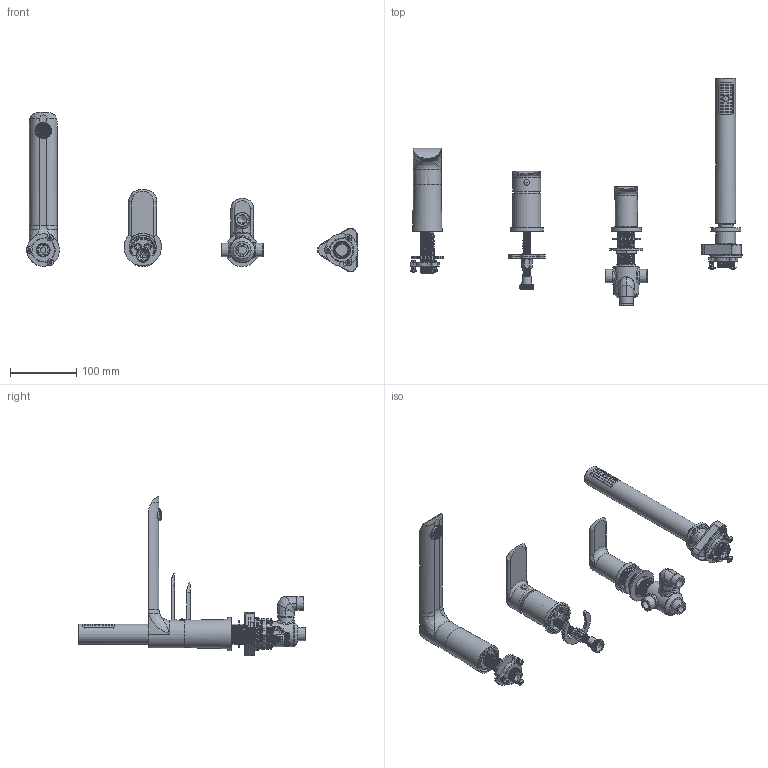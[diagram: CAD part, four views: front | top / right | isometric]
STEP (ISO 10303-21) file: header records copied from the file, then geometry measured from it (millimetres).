
FILE_DESCRIPTION(/* description */ (''),/* implementation_level */ '2;1');
FILE_NAME(/* name */ 'D:\Omnires\Export_Omnires\rys_step\5901867779496_stp.stp',/* time_stamp */ '2020-07-27T15:22:54+02:00',/* author */ (''),/* organization */ (''),/* preprocessor_version */ 'ST-DEVELOPER v18.1',/* originating_system */ 'Autodesk Inventor 2020',/* authorisation */ '');
FILE_SCHEMA (('AUTOMOTIVE_DESIGN { 1 0 10303 214 3 1 1 }'));
Length unit declared in the file: millimetre
Products named in the file (1): 5901867779496_dwg
Bounding box: 500.46 x 343.2 x 240.92 mm (x, y, z)
Surface area: 349509 mm2 (no closed solid volume)
Topology: 0 solids, 60 shells, 4164 faces, 12789 edges, 8636 vertices
Faces by surface type: plane 1927, cylinder 1545, bspline 403, cone 164, torus 91, sphere 34
Full cylindrical faces by diameter (mm): 0.5 x523, 0.631 x5, 0.95 x1, 1.047 x1, 1.643 x1, 2 x2, 3.5 x1, 4 x1, 4.1 x2, 4.3 x2, 4.8 x6, 5 x12, 5.2 x6, 5.5 x1, 5.6 x1, 6 x78, 6.4 x1, 6.7 x1, 6.8 x1, 7 x1, 7.5 x2, 7.7 x1, 8 x3, 8.5 x4, 8.6 x2, 9 x3, 9.5 x4, 9.9 x1, 10.2 x6, 10.5 x2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
Entity records: 366857 total; most frequent: CARTESIAN_POINT 250816, ORIENTED_EDGE 25546, DIRECTION 19821, EDGE_CURVE 12773, VERTEX_POINT 8634, AXIS2_PLACEMENT_3D 7032, LINE 5757, VECTOR 5757
